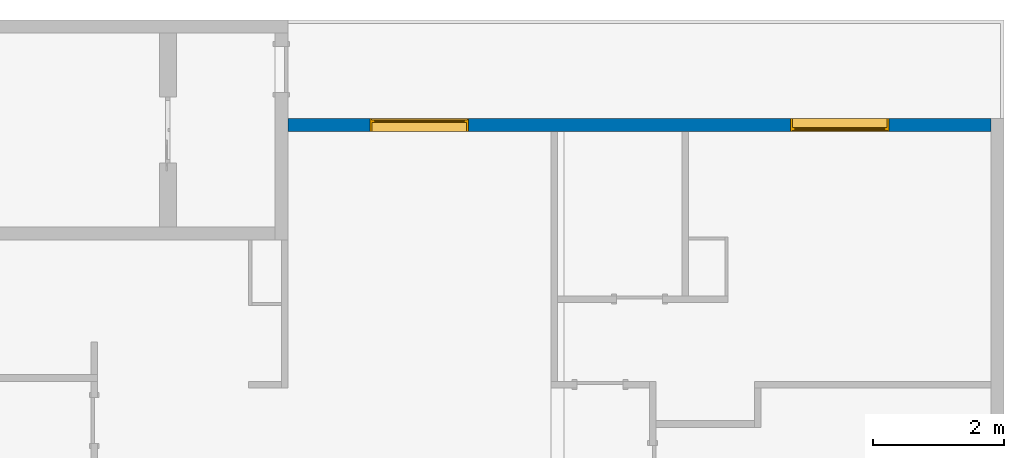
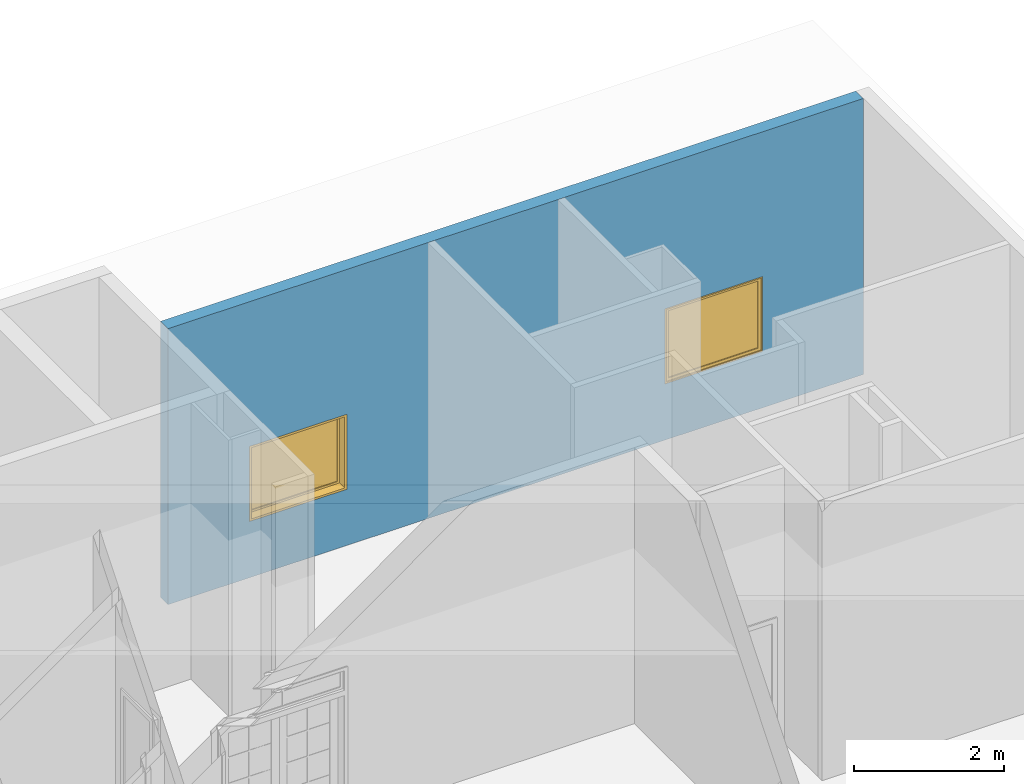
# One storey, part 5 of 7: 2 windows, 1 wall, 2 openings.
"""IFC2X3 building model written with IfcOpenShell, lengths in metres."""

from ifc_helpers import new_model, entity, si_unit, converted_unit, derived_unit, direction, frame, frame_2d, origin, place, context, subcontext, project, spatial, polyline, rectangle, outline, extrude, source, transform, mapped, material, material_list, layer, layer_set, layer_usage, type_object, type_shapes, element, fill, save


model = new_model("IFC2X3")

# Units and contexts
model_context = context("Model", 3, precision=1e-05, world=origin(), true_north=direction((6.123031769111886e-17, 1.0)))
body_context = subcontext(model_context, "Body", "Model", "MODEL_VIEW")
ifc_project = project(units=[si_unit("LENGTHUNIT", "METRE"), si_unit("AREAUNIT", "SQUARE_METRE"), si_unit("VOLUMEUNIT", "CUBIC_METRE"), converted_unit("PLANEANGLEUNIT", "DEGREE", entity("IfcRatioMeasure", 0.017453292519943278), si_unit("PLANEANGLEUNIT", "RADIAN"), dimensions=[0, 0, 0, 0, 0, 0, 0]), si_unit("MASSUNIT", "GRAM", prefix="KILO"), derived_unit("MASSDENSITYUNIT", [(si_unit("MASSUNIT", "GRAM", prefix="KILO"), 1), (si_unit("LENGTHUNIT", "METRE"), -3)]), derived_unit("MOMENTOFINERTIAUNIT", [(si_unit("LENGTHUNIT", "METRE"), 4)]), si_unit("TIMEUNIT", "SECOND"), si_unit("FREQUENCYUNIT", "HERTZ"), si_unit("THERMODYNAMICTEMPERATUREUNIT", "DEGREE_CELSIUS"), derived_unit("THERMALTRANSMITTANCEUNIT", [(si_unit("MASSUNIT", "GRAM", prefix="KILO"), 1), (si_unit("THERMODYNAMICTEMPERATUREUNIT", "KELVIN"), -1), (si_unit("TIMEUNIT", "SECOND"), -3)]), derived_unit("VOLUMETRICFLOWRATEUNIT", [(si_unit("LENGTHUNIT", "METRE"), 3), (si_unit("TIMEUNIT", "SECOND"), -1)]), derived_unit("MASSFLOWRATEUNIT", [(si_unit("MASSUNIT", "GRAM", prefix="KILO"), 1), (si_unit("TIMEUNIT", "SECOND"), -1)]), derived_unit("ROTATIONALFREQUENCYUNIT", [(si_unit("TIMEUNIT", "SECOND"), -1)]), si_unit("ELECTRICCURRENTUNIT", "AMPERE"), si_unit("ELECTRICVOLTAGEUNIT", "VOLT"), si_unit("POWERUNIT", "WATT"), si_unit("FORCEUNIT", "NEWTON", prefix="KILO"), si_unit("ILLUMINANCEUNIT", "LUX"), si_unit("LUMINOUSFLUXUNIT", "LUMEN"), si_unit("LUMINOUSINTENSITYUNIT", "CANDELA"), derived_unit("USERDEFINED", [(si_unit("MASSUNIT", "GRAM", prefix="KILO"), -1), (si_unit("LENGTHUNIT", "METRE"), -2), (si_unit("TIMEUNIT", "SECOND"), 3), (si_unit("LUMINOUSFLUXUNIT", "LUMEN"), 1)]), derived_unit("SOUNDPOWERUNIT", [(si_unit("MASSUNIT", "GRAM", prefix="KILO"), 1), (si_unit("LENGTHUNIT", "METRE"), 2), (si_unit("TIMEUNIT", "SECOND"), -3)]), derived_unit("SOUNDPRESSUREUNIT", [(si_unit("MASSUNIT", "GRAM", prefix="KILO"), 1), (si_unit("LENGTHUNIT", "METRE"), -1), (si_unit("TIMEUNIT", "SECOND"), -2)]), derived_unit("LINEARVELOCITYUNIT", [(si_unit("LENGTHUNIT", "METRE"), 1), (si_unit("TIMEUNIT", "SECOND"), -1)]), si_unit("PRESSUREUNIT", "PASCAL"), derived_unit("USERDEFINED", [(si_unit("LENGTHUNIT", "METRE"), -2), (si_unit("MASSUNIT", "GRAM", prefix="KILO"), 1), (si_unit("TIMEUNIT", "SECOND"), -2)]), derived_unit("LINEARFORCEUNIT", [(si_unit("MASSUNIT", "GRAM", prefix="KILO"), 1), (si_unit("LENGTHUNIT", "METRE"), 1), (si_unit("TIMEUNIT", "SECOND"), -2), (si_unit("LENGTHUNIT", "METRE"), -1)]), derived_unit("PLANARFORCEUNIT", [(si_unit("MASSUNIT", "GRAM", prefix="KILO"), 1), (si_unit("LENGTHUNIT", "METRE"), 1), (si_unit("TIMEUNIT", "SECOND"), -2), (si_unit("LENGTHUNIT", "METRE"), -2)])], contexts=[model_context])

# Site, building, storey
site_placement = place(None, origin())
site = spatial("IfcSite", under=ifc_project, at=site_placement, Name="Default", CompositionType="ELEMENT")
building_placement = place(site_placement, origin())
building = spatial("IfcBuilding", under=site, at=building_placement, CompositionType="ELEMENT")
storey_placement = place(building_placement, frame((0.0, 0.0, 5.639999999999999)))
storey = spatial("IfcBuildingStorey", under=building, at=storey_placement, Name="F1", CompositionType="ELEMENT", Elevation=5.639999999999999)

# Wall, openings, windows
ifc_material_1 = material(Name="Masonry - Concrete Block")
ifc_layer = layer(ifc_material_1, 0.2)
ifc_layer_set = layer_set([ifc_layer], Name="Basic Wall:CW 200")
ifc_layer_usage = layer_usage(ifc_layer_set, "AXIS2", "NEGATIVE", 0.1)
wall_type = type_object("IfcWallType", Name="Basic Wall:CW 200", PredefinedType="STANDARD", material=ifc_layer_set)
wall_placement = place(storey_placement, frame((28.70768321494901, 4.402607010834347, 0.0), z_axis=(0.0, 0.0, 1.0), x_axis=(-1.0, 0.0, 0.0)))
wall = element("IfcWallStandardCase", 1, at=wall_placement, inside=storey, type_object=wall_type, material=ifc_layer_usage, Name="Basic Wall:CW 200", ObjectType="Basic Wall:CW 200", context=body_context, shape_type="SweptSolid", body=[
    extrude(rectangle(XDim=10.699999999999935, YDim=0.2, at=frame_2d((5.349999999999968, -2.220446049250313e-16), x_axis=(-1.0, 0.0))), origin(), (0.0, 0.0, 1.0), 4.490000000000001),
])
opening_1_placement = place(wall_placement, frame((1.5499999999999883, -0.10000000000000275, 0.9150000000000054)))
opening_1 = element("IfcOpeningElement", 2, at=opening_1_placement, cuts=wall, Name="M_Fixed:0915 x 1220mm:1", ObjectType="Opening", context=body_context, shape_type="SweptSolid", body=[
    extrude(rectangle(XDim=1.2199999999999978, YDim=1.4999999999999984, at=frame_2d((0.6099999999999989, 0.7499999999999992), x_axis=(1.0, 0.0))), frame((0.0, 0.0, 0.0), z_axis=(0.0, 1.0, 0.0), x_axis=(0.0, 0.0, 1.0)), (0.0, 0.0, 1.0), 0.2),
])
opening_2_placement = place(wall_placement, frame((9.449999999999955, 0.09999999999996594, 0.9150000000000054)))
opening_2 = element("IfcOpeningElement", 3, at=opening_2_placement, cuts=wall, Name="M_Fixed:0915 x 1220mm:1", ObjectType="Opening", context=body_context, shape_type="SweptSolid", body=[
    extrude(rectangle(XDim=1.2199999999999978, YDim=1.4999999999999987, at=frame_2d((0.6099999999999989, 0.7499999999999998), x_axis=(1.0, 0.0))), frame((0.0, 0.0, 0.0), z_axis=(0.0, -1.0, 0.0), x_axis=(0.0, 0.0, 1.0)), (0.0, 0.0, 1.0), 0.2),
])
ifc_material_2 = material(Name="Glass")
ifc_material_3 = material(Name="Sash")
ifc_material_list_1 = material_list([ifc_material_2, ifc_material_3])
ifc_material_list_2 = material_list([ifc_material_2, ifc_material_3, ifc_material_3, ifc_material_3])
window_style = type_object("IfcWindowStyle", Name="M_Fixed:0915 x 1220mm", ConstructionType="NOTDEFINED", OperationType="NOTDEFINED", ParameterTakesPrecedence=False, Sizeable=False, material=ifc_material_list_2)
shared_shape = source(origin(), body_context, "Body", "SweptSolid", [
    extrude(rectangle(XDim=0.011999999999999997, YDim=1.3739999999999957, at=frame_2d((8.239936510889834e-18, 0.0), x_axis=(1.0, 0.0))), frame((0.7500000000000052, 0.15899999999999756, 0.06299999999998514), z_axis=(0.0, 0.0, 1.0), x_axis=(0.0, -1.0, 0.0)), (0.0, 0.0, 1.0), 1.0940000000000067),
    extrude(outline(polyline([(-0.7309999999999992, -0.5910000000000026), (0.7309999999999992, -0.5910000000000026), (0.7309999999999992, 0.5910000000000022), (-0.7309999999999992, 0.5910000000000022), (-0.7309999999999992, -0.5910000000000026)]), holes=[polyline([(-0.686999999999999, -0.5470000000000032), (-0.686999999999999, 0.5470000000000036), (0.6869999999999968, 0.5470000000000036), (0.6869999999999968, -0.5470000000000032), (-0.686999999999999, -0.5470000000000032)])]), frame((0.7500000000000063, 0.13699999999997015, 0.6099999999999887), z_axis=(0.0, 1.0, 0.0), x_axis=(1.0, 0.0, 0.0)), (0.0, 0.0, 1.0), 0.04400000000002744),
    extrude(outline(polyline([(-0.749999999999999, -0.609999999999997), (0.749999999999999, -0.609999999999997), (0.749999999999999, 0.609999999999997), (-0.749999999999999, 0.609999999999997), (-0.749999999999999, -0.609999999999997)]), holes=[polyline([(-0.7310000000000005, -0.5909999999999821), (-0.7310000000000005, 0.5910000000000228), (0.7309999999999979, 0.5910000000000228), (0.7309999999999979, -0.5909999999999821), (-0.7310000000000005, -0.5909999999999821)])]), frame((0.7500000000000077, 0.13699999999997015, 0.6100000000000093), z_axis=(0.0, 1.0, 0.0), x_axis=(1.0, 0.0, 0.0)), (0.0, 0.0, 1.0), 0.06300000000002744),
    extrude(outline(polyline([(-0.7499999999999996, -0.6099999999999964), (0.7499999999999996, -0.6099999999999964), (0.7499999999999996, 0.6099999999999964), (-0.7499999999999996, 0.6099999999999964), (-0.7499999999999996, -0.6099999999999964)]), holes=[polyline([(-0.7179999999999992, -0.5779999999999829), (-0.7179999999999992, 0.5780000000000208), (0.7179999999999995, 0.5780000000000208), (0.7179999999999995, -0.5779999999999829), (-0.7179999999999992, -0.5779999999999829)])]), frame((0.750000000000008, 0.0, 0.6100000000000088), z_axis=(0.0, 1.0, 0.0), x_axis=(1.0, 0.0, 0.0)), (0.0, 0.0, 1.0), 0.1369999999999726),
])
type_shapes(window_style, [shared_shape])
window_1_placement = place(opening_1_placement, origin())
window_1 = element("IfcWindow", 4, at=window_1_placement, inside=storey, type_object=window_style, material=ifc_material_list_1, Name="M_Fixed:0915 x 1220mm", ObjectType="M_Fixed:0915 x 1220mm", OverallHeight=1.2199999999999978, OverallWidth=1.499999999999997, context=body_context, shape_type="MappedRepresentation", body=[
    mapped(shared_shape, transform((0.0, 0.0, 0.0), scale=1.0)),
])
fill(opening_1, window_1)
ifc_material_list_3 = material_list([ifc_material_2, ifc_material_3])
window_2_placement = place(opening_2_placement, frame((0.0, 0.0, 0.0), z_axis=(0.0, 0.0, 1.0), x_axis=(-1.0, 0.0, 0.0)))
window_2 = element("IfcWindow", 5, at=window_2_placement, inside=storey, type_object=window_style, material=ifc_material_list_3, Name="M_Fixed:0915 x 1220mm", ObjectType="M_Fixed:0915 x 1220mm", OverallHeight=1.2199999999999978, OverallWidth=1.500000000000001, context=body_context, shape_type="MappedRepresentation", body=[
    mapped(shared_shape, transform((0.0, 0.0, 0.0), scale=1.0)),
])
fill(opening_2, window_2)

save(model, "model.ifc")
